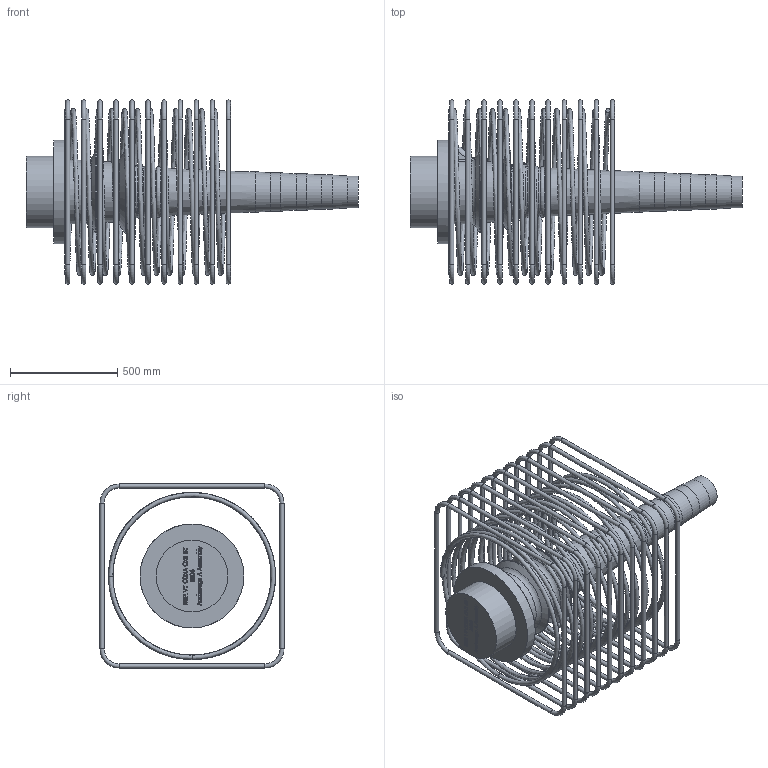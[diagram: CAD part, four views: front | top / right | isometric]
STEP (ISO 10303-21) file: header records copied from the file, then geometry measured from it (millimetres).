
FILE_DESCRIPTION(/* description */ (''),/* implementation_level */ '2;1');
FILE_NAME(/* name */ 'Z:\04 Publications\05 Give-out\BBR\6_3D_Models\BBR VT CONA CMI\BBR VT CONA CMI BT\05506\BBR VT CONA CMI BT 5506_Anchorage A Assembly_CS-34,28.stp',/* time_stamp */ '2017-05-18T14:06:36+02:00',/* author */ ('IP'),/* organization */ (''),/* preprocessor_version */ 'ST-DEVELOPER v16.1',/* originating_system */ 'Autodesk Inventor 2016',/* authorisation */ '');
FILE_SCHEMA (('AUTOMOTIVE_DESIGN { 1 0 10303 214 3 1 1 }'));
Length unit declared in the file: millimetre
Products named in the file (1): BBR VT CONA CMI BT 5506_Anchorage A Assembly_CS-34,28
Bounding box: 1550.46 x 860 x 860 mm (x, y, z)
Volume: 96268425.2 mm3; surface area: 5824028.1 mm2
Topology: 13 solids, 13 shells, 800 faces, 2064 edges, 1324 vertices
Faces by surface type: plane 322, bspline 322, torus 79, cylinder 64, cone 11, sphere 2
Full cylindrical faces by diameter (mm): 20 x44, 35 x1, 57 x1, 149 x1, 159 x1, 169 x1, 179 x1, 282 x1, 335 x1, 377 x1, 390 x1, 485 x1
Entity records: 32656 total; most frequent: CARTESIAN_POINT 15031, ORIENTED_EDGE 3844, DIRECTION 2413, EDGE_CURVE 1922, VERTEX_POINT 1317, LINE 1073, VECTOR 1073, EDGE_LOOP 993
